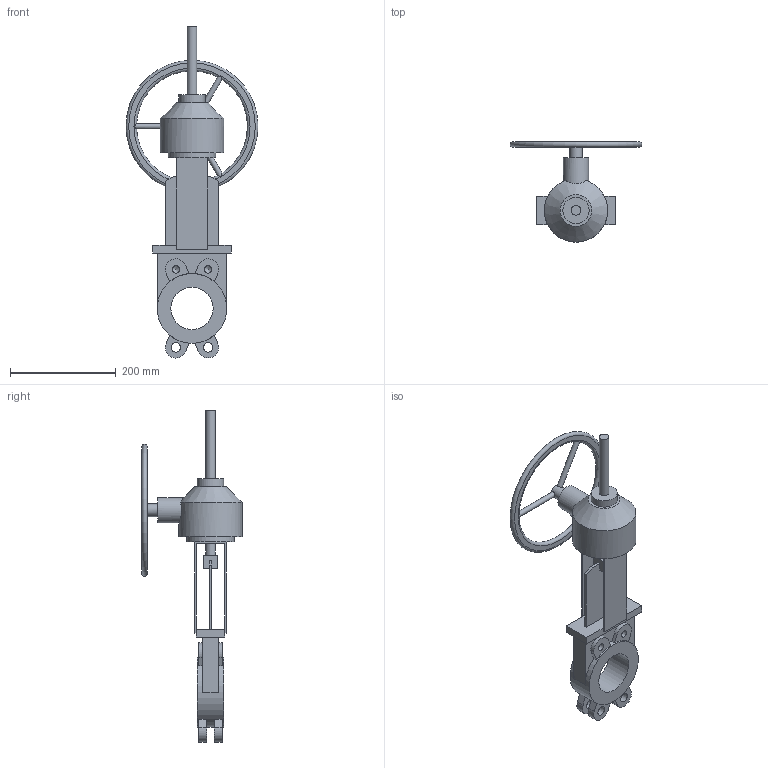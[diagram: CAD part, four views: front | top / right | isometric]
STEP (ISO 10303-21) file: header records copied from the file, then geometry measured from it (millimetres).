
FILE_DESCRIPTION(('STEP AP203'), '1');
FILE_NAME('Çàäâèæêà øèáåðíàÿ K51GV DN80 ðåäóêòîð+âûäâèæíîé øïèíäåëü', '', ('UNSPECIFIED'), ('UNSPECIFIED'), 'ASCON STEP Converter 1.6', 'ASCON Math Kernel', '');
FILE_SCHEMA(('CONFIG_CONTROL_DESIGN'));
Length unit declared in the file: millimetre
Bounding box: 250 x 190 x 628.89 mm (x, y, z)
Volume: 2319212 mm3; surface area: 292064 mm2
Topology: 1 solids, 1 shells, 110 faces, 288 edges, 185 vertices
Faces by surface type: plane 73, cylinder 28, cone 5, torus 4
Full cylindrical faces by diameter (mm): 10 x3, 13.835 x4, 18 x6, 24 x1, 48 x1, 50 x1, 80 x1, 90 x1, 120 x1, 132 x1
Entity records: 5531 total; most frequent: CARTESIAN_POINT 1960, DIRECTION 546, ORIENTED_EDGE 514, EDGE_CURVE 257, AXIS2_PLACEMENT_3D 193, VERTEX_POINT 181, EDGE_LOOP 162, LINE 160
